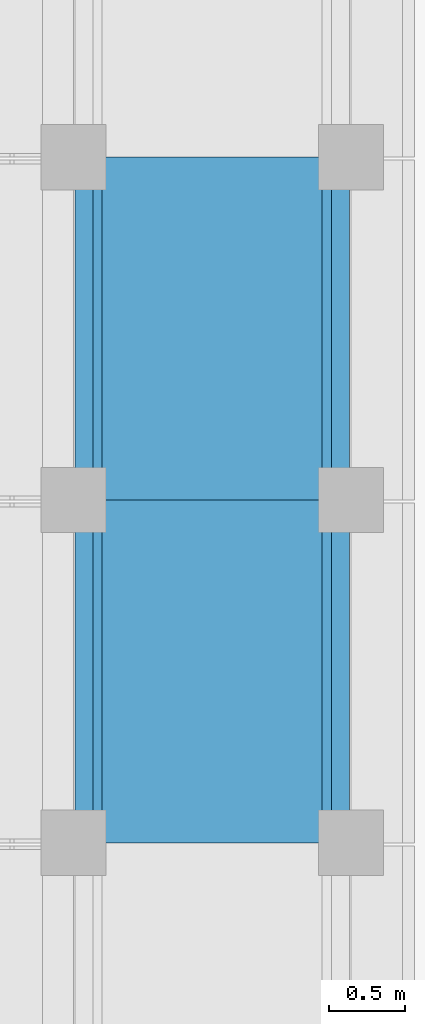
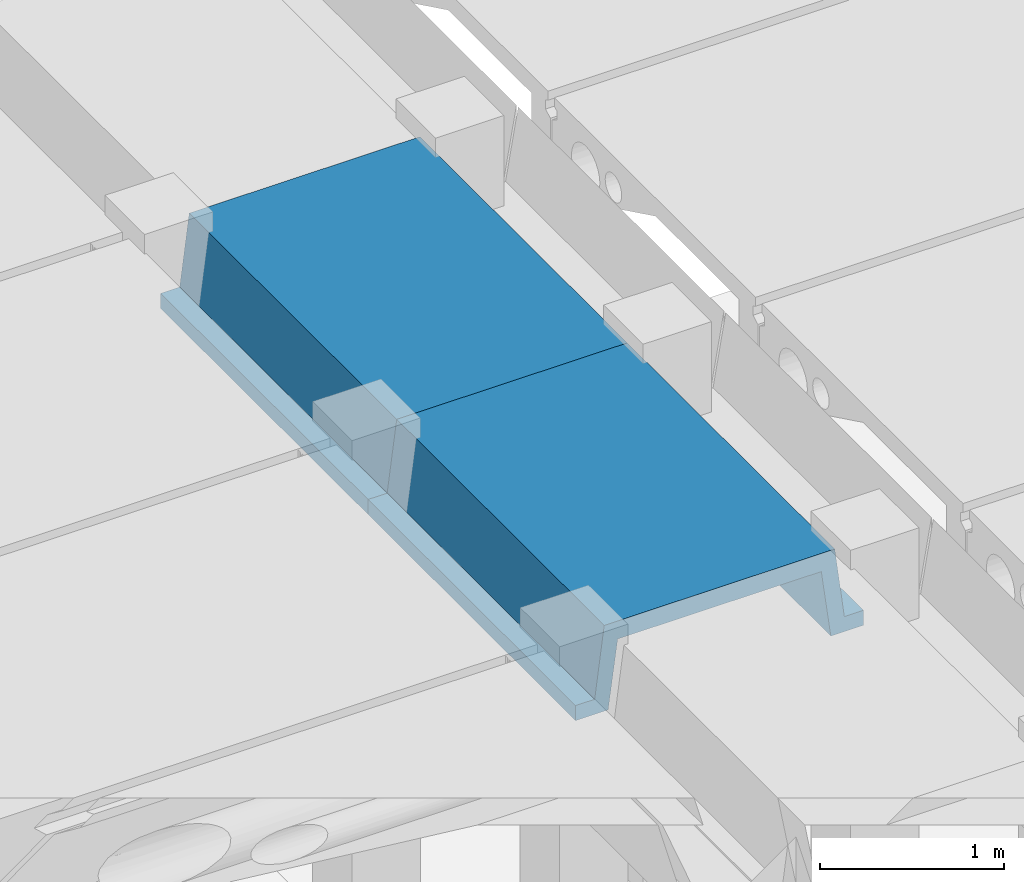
# One storey, part 21 of 25: 2 beams.
"""IFC2X3 building model written with IfcOpenShell, lengths in millimetres."""

from ifc_helpers import new_model, entity, si_unit, converted_unit, derived_unit, direction, frame, origin, place, context, subcontext, project, spatial, polyline, outline, extrude, material, type_object, element, save


model = new_model("IFC2X3")

# Units and contexts
model_context = context("Model", 3, precision=0.01, world=origin(), true_north=direction((6.12303176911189e-17, 1.0)))
body_context = subcontext(model_context, "Body", "Model", "MODEL_VIEW")
ifc_project = project(units=[si_unit("LENGTHUNIT", "METRE", prefix="MILLI"), si_unit("AREAUNIT", "SQUARE_METRE"), si_unit("VOLUMEUNIT", "CUBIC_METRE"), converted_unit("PLANEANGLEUNIT", "DEGREE", entity("IfcRatioMeasure", 0.0174532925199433), si_unit("PLANEANGLEUNIT", "RADIAN"), dimensions=[0, 0, 0, 0, 0, 0, 0]), si_unit("MASSUNIT", "GRAM", prefix="KILO"), derived_unit("MASSDENSITYUNIT", [(si_unit("MASSUNIT", "GRAM", prefix="KILO"), 1), (si_unit("LENGTHUNIT", "METRE"), -3)]), derived_unit("MOMENTOFINERTIAUNIT", [(si_unit("LENGTHUNIT", "METRE"), 4)]), si_unit("TIMEUNIT", "SECOND"), si_unit("FREQUENCYUNIT", "HERTZ"), si_unit("THERMODYNAMICTEMPERATUREUNIT", "DEGREE_CELSIUS"), derived_unit("THERMALTRANSMITTANCEUNIT", [(si_unit("MASSUNIT", "GRAM", prefix="KILO"), 1), (si_unit("THERMODYNAMICTEMPERATUREUNIT", "KELVIN"), -1), (si_unit("TIMEUNIT", "SECOND"), -3)]), derived_unit("VOLUMETRICFLOWRATEUNIT", [(si_unit("LENGTHUNIT", "METRE"), 3), (si_unit("TIMEUNIT", "SECOND"), -1)]), si_unit("ELECTRICCURRENTUNIT", "AMPERE"), si_unit("ELECTRICVOLTAGEUNIT", "VOLT"), si_unit("POWERUNIT", "WATT"), si_unit("FORCEUNIT", "NEWTON", prefix="KILO"), si_unit("ILLUMINANCEUNIT", "LUX"), si_unit("LUMINOUSFLUXUNIT", "LUMEN"), si_unit("LUMINOUSINTENSITYUNIT", "CANDELA"), derived_unit("USERDEFINED", [(si_unit("MASSUNIT", "GRAM", prefix="KILO"), -1), (si_unit("LENGTHUNIT", "METRE"), -2), (si_unit("TIMEUNIT", "SECOND"), 3), (si_unit("LUMINOUSFLUXUNIT", "LUMEN"), 1)]), derived_unit("LINEARVELOCITYUNIT", [(si_unit("LENGTHUNIT", "METRE"), 1), (si_unit("TIMEUNIT", "SECOND"), -1)]), si_unit("PRESSUREUNIT", "PASCAL"), derived_unit("USERDEFINED", [(si_unit("LENGTHUNIT", "METRE"), -2), (si_unit("MASSUNIT", "GRAM", prefix="KILO"), 1), (si_unit("TIMEUNIT", "SECOND"), -2)]), derived_unit("LINEARFORCEUNIT", [(si_unit("MASSUNIT", "GRAM", prefix="KILO"), 1), (si_unit("LENGTHUNIT", "METRE"), 1), (si_unit("TIMEUNIT", "SECOND"), -2), (si_unit("LENGTHUNIT", "METRE"), -1)]), derived_unit("PLANARFORCEUNIT", [(si_unit("MASSUNIT", "GRAM", prefix="KILO"), 1), (si_unit("LENGTHUNIT", "METRE"), 1), (si_unit("TIMEUNIT", "SECOND"), -2), (si_unit("LENGTHUNIT", "METRE"), -2)])], contexts=[model_context])

# Site, building, storey
site_placement = place(None, frame((10627.5135316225, 21939.0796949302, 0.0)))
site = spatial("IfcSite", under=ifc_project, at=site_placement, Name="Default", CompositionType="ELEMENT")
building_placement = place(site_placement, origin())
building = spatial("IfcBuilding", under=site, at=building_placement, CompositionType="ELEMENT")
storey_placement = place(building_placement, origin())
storey = spatial("IfcBuildingStorey", under=building, at=storey_placement, Name="RDC", CompositionType="ELEMENT", Elevation=0.0)

# Beams
ifc_material = material(Name="Concrete, Precast Smooth, Light Grey")
beam_type = type_object("IfcBeamType", Name="Poutre petite:Poutre petite", PredefinedType="NOTDEFINED")
beam_1_placement = place(storey_placement, frame((52487.4864683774, 11960.9203050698, 3530.0), z_axis=(0.0, 0.0, 1.0), x_axis=(0.0, 1.0, 0.0)))
element("IfcBeam", 1, at=beam_1_placement, inside=storey, type_object=beam_type, material=ifc_material, Name="Poutre petite:Poutre petite", ObjectType="Poutre petite:Poutre petite", context=body_context, shape_type="SweptSolid", body=[
    extrude(outline(polyline([(103.333217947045, -905.014058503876), (203.333564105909, -905.014058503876), (203.333564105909, -700.013543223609), (-246.666782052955, -640.013497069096), (-246.666782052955, 640.013684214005), (203.333564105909, 700.013730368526), (203.333564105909, 905.013684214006), (103.333217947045, 905.013684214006), (103.333217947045, 785.013684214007), (-366.666782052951, 725.013684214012), (-366.666782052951, -725.013497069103), (103.333217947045, -785.013497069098), (103.333217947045, -905.014058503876)])), frame((0.0, 0.000187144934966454, -366.666782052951), z_axis=(1.0, 0.0, 0.0), x_axis=(0.0, 0.0, -1.0)), (0.0, 0.0, 1.0), 2260.0),
])
beam_2_placement = place(storey_placement, frame((52487.4864683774, 9700.92030506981, 3530.0), z_axis=(0.0, 0.0, 1.0), x_axis=(0.0, 1.0, 0.0)))
element("IfcBeam", 2, at=beam_2_placement, inside=storey, type_object=beam_type, material=ifc_material, Name="Poutre petite:Poutre petite", ObjectType="Poutre petite:Poutre petite", context=body_context, shape_type="SweptSolid", body=[
    extrude(outline(polyline([(103.333217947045, -905.014058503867), (203.333564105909, -905.014058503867), (203.333564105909, -700.0135432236), (-246.666782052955, -640.013497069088), (-246.666782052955, 640.013684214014), (203.333564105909, 700.013730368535), (203.333564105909, 905.013684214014), (103.333217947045, 905.013684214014), (103.333217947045, 785.013684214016), (-366.666782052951, 725.01368421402), (-366.666782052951, -725.013497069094), (103.333217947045, -785.013497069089), (103.333217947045, -905.014058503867)])), frame((0.0, 0.000187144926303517, -366.666782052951), z_axis=(1.0, 0.0, 0.0), x_axis=(0.0, 0.0, -1.0)), (0.0, 0.0, 1.0), 2260.0),
])

save(model, "model.ifc")
